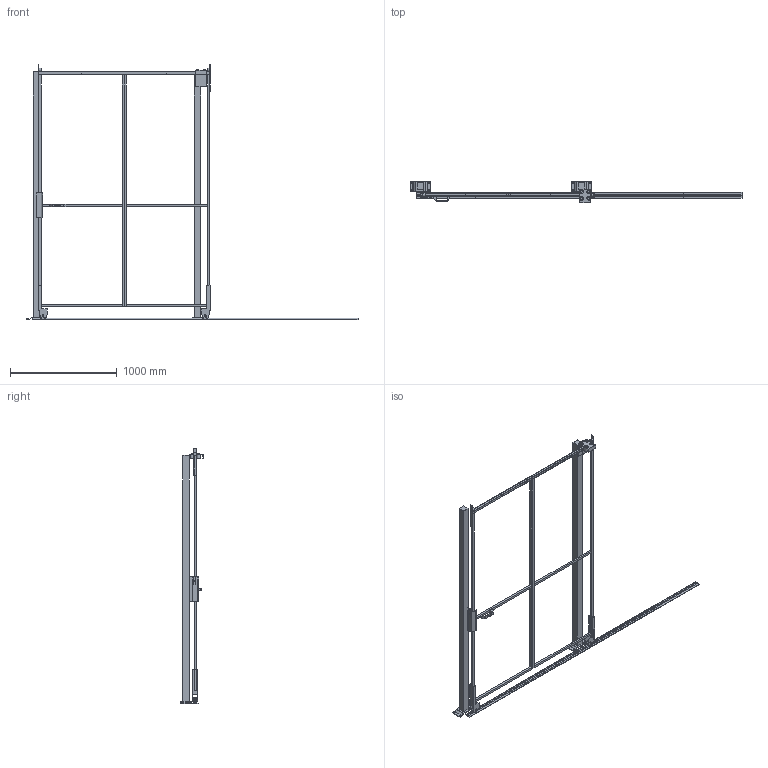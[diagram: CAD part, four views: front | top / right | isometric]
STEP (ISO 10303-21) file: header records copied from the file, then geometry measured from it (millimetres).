
FILE_DESCRIPTION(/* description */ (''),/* implementation_level */ '2;1');
FILE_NAME(/* name */ 'C:\SafeGuarding\ELABORATI\Drawing5_2025-04-02-12-08-43.stp',/* time_stamp */ '2025-04-02T12:08:45+02:00',/* author */ ('admin'),/* organization */ (''),/* preprocessor_version */ 'ST-DEVELOPER v18.1',/* originating_system */ 'AutoCAD Mechanical',/* authorisation */ '');
FILE_SCHEMA (('AUTOMOTIVE_DESIGN { 1 0 10303 214 3 1 1 }'));
Length unit declared in the file: millimetre
Products named in the file (3): Product; R_VFPA.REPE20.08002200; P_VFMA.V260SDU.2320
Assembly tree (4 placements, depth 2):
  Product
    R_VFPA.REPE20.08002200  x2
    P_VFMA.V260SDU.2320  x2
Bounding box: 3111.45 x 210 x 2390 mm (x, y, z)
Volume: 24454082.1 mm3; surface area: 3688520.1 mm2
Topology: 40 solids, 51 shells, 387 faces, 1213 edges, 1197 vertices
Faces by surface type: plane 341, cylinder 40, cone 4, sphere 2
Full cylindrical faces by diameter (mm): 9 x4, 11 x8, 13 x4, 18 x4, 30 x2, 36 x4, 58 x4
Entity records: 11382 total; most frequent: CARTESIAN_POINT 2400, DIRECTION 1743, ORIENTED_EDGE 1622, EDGE_CURVE 860, LINE 771, VECTOR 771, VERTEX_POINT 614, AXIS2_PLACEMENT_3D 486
